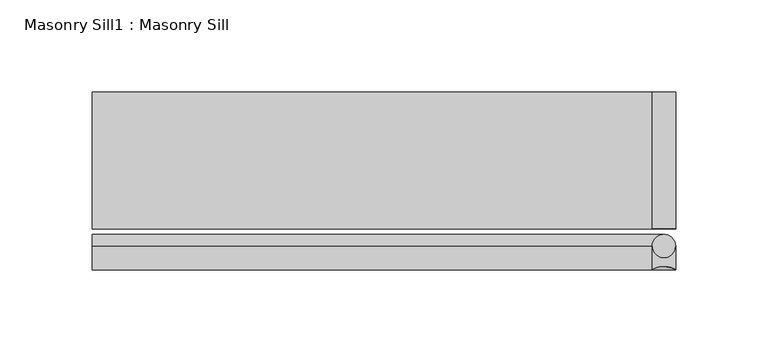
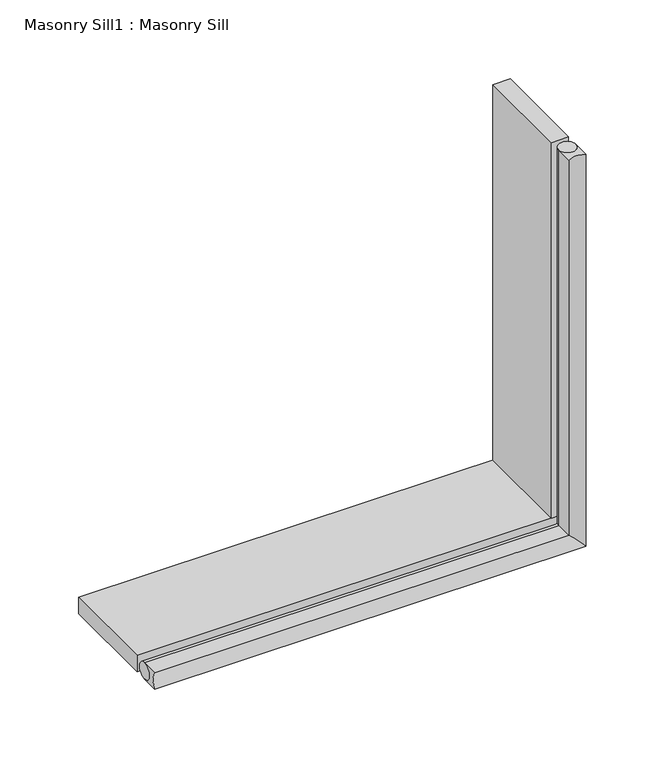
"""IFC4 building model written with IfcOpenShell, lengths in millimetres: proxy geometry, Masonry Sill1 : Masonry Sill."""

from ifc_helpers import new_model, si_unit, frame, origin, place, context, project, spatial, polyline, circle_curve, ellipse_curve, outline, extrude, source, transform, mapped, element, save
from ifc_brep_helpers import plane_surface, cylinder_surface, revolved_surface, advanced_brep


def masonry_sill1_masonry_sill_69ac0e3b(model_context):
    return source(origin(), model_context, "Body", "SolidModel", [
        advanced_brep(
        [(26539.9726773, 633.9816297, 611.1875), (26539.9726773, 633.9816297, 623.8875), (26539.9726773, 646.6816297, 623.8875), (26539.9726773, 646.6816297, 611.1875), (26855.8851773, 633.9816297, 914.4), (26855.8851773, 646.6816297, 914.4), (26843.1851773, 646.6816297, 914.4), (26843.1851773, 633.9816297, 914.4), (26855.8851773, 646.6816297, 611.1875), (26855.8851773, 633.9816297, 611.1875), (26843.1851773, 646.6816297, 623.8875), (26843.1851773, 633.9816297, 623.8875)],
        [
            (0, 1, circle_curve(frame((26539.9726773, 622.983107, 617.5375), z_axis=(1.0, 0.0, 0.0), x_axis=(0.0, 0.0, 1.0)), 12.7)),
            (1, 2),
            (2, 3, circle_curve(frame((26539.9726773, 646.6816297, 617.5375), z_axis=(1.0, 0.0, 0.0), x_axis=(0.0, 0.0, 1.0)), 6.35)),
            (3, 0),
            (4, 5),
            (5, 6, circle_curve(frame((26849.5351773, 646.6816297, 914.4), z_axis=(0.0, 0.0, -1.0), x_axis=(-1.0, 0.0, 0.0)), 6.35)),
            (6, 7),
            (7, 4, circle_curve(frame((26849.5351773, 622.983107, 914.4), z_axis=(0.0, 0.0, -1.0), x_axis=(-1.0, 0.0, 0.0)), 12.7)),
            (3, 8),
            (8, 9),
            (9, 0),
            (2, 10),
            (10, 8, ellipse_curve(frame((26849.5351773, 646.6816297, 617.5375), z_axis=(0.7071067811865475, 0.0, 0.7071067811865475), x_axis=(0.7071067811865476, 0.0, -0.7071067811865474)), 8.9802561, 6.35)),
            (1, 11),
            (11, 10),
            (9, 11, ellipse_curve(frame((26849.5351773, 622.983107, 617.5375), z_axis=(0.7071067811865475, 0.0, 0.7071067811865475), x_axis=(0.7071067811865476, 0.0, -0.7071067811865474)), 17.9605122, 12.7)),
            (8, 5),
            (4, 9),
            (10, 6),
            (11, 7),
        ],
        [
            plane_surface(frame((26539.9726773, 656.2066297, 623.8875), z_axis=(-1.0, 0.0, 0.0), x_axis=(0.0, -1.0, 0.0))),
            plane_surface(frame((26843.1851773, 656.2066297, 914.4), z_axis=(0.0, 0.0, 1.0), x_axis=(0.0, -1.0, 0.0))),
            plane_surface(frame((26539.9726773, 646.6816297, 611.1875), z_axis=(0.0, 0.0, -1.0), x_axis=(1.0, 0.0, 0.0))),
            revolved_surface(polyline([(26855.8851773, 646.6816297, 623.8875), (26539.9726773, 646.6816297, 623.8875)]), (26539.9726773, 646.6816297, 617.5375), (1.0, 0.0, 0.0)),
            plane_surface(frame((26539.9726773, 633.9816297, 623.8875), z_axis=(0.0, 0.0, 1.0), x_axis=(1.0, 0.0, 0.0))),
            revolved_surface(polyline([(26862.235177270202, 622.983107, 630.2375000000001), (26539.9726773, 622.983107, 630.2375000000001)]), (26539.9726773, 622.983107, 617.5375), (1.0, 0.0, 0.0)),
            plane_surface(frame((26855.8851773, 646.6816297, 611.1875), z_axis=(1.0, 0.0, 0.0), x_axis=(0.0, 0.0, 1.0))),
            revolved_surface(polyline([(26843.1851773, 646.6816297, 914.4), (26843.1851773, 646.6816297, 611.1875)]), (26849.5351773, 646.6816297, 623.8875), (0.0, 0.0, 1.0)),
            plane_surface(frame((26843.1851773, 633.9816297, 623.8875), z_axis=(-1.0, 0.0, 0.0), x_axis=(0.0, 0.0, 1.0))),
            revolved_surface(polyline([(26836.8351773, 622.983107, 914.4), (26836.8351773, 622.983107, 604.8375000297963)]), (26849.5351773, 622.983107, 623.8875), (0.0, 0.0, 1.0)),
        ],
        [
            (0, [[1, 2, 3, 4]]),
            (1, [[5, 6, 7, 8]]),
            (2, [[-4, 9, 10, 11]]),
            (3, [[-3, 12, 13, -9]]),
            (4, [[-2, 14, 15, -12]]),
            (5, [[-1, -11, 16, -14]]),
            (6, [[-10, 17, -5, 18]]),
            (7, [[-13, 19, -6, -17]]),
            (8, [[-15, 20, -7, -19]]),
            (9, [[-16, -18, -8, -20]]),
        ],
    ),
        advanced_brep(
        [(26539.9726773, 646.6816297, 611.1875), (26539.9726773, 646.6816297, 623.8875), (26843.1851773, 646.6816297, 623.8875), (26855.8851773, 646.6816297, 611.1875), (26855.8851773, 646.6816297, 914.4), (26843.1851773, 646.6816297, 914.4)],
        [
            (0, 1, circle_curve(frame((26539.9726773, 646.6816297, 617.5375), z_axis=(-1.0, 0.0, 0.0), x_axis=(0.0, 0.0, 1.0)), 6.35)),
            (1, 0, circle_curve(frame((26539.9726773, 646.6816297, 617.5375), z_axis=(-1.0, 0.0, 0.0), x_axis=(0.0, 0.0, 1.0)), 6.35)),
            (1, 2),
            (2, 3, ellipse_curve(frame((26849.5351773, 646.6816297, 617.5375), z_axis=(-0.7071067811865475, 0.0, -0.7071067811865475), x_axis=(-0.7071067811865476, 0.0, 0.7071067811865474)), 8.9802561, 6.35)),
            (3, 0),
            (3, 2, ellipse_curve(frame((26849.5351773, 646.6816297, 617.5375), z_axis=(-0.7071067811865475, 0.0, -0.7071067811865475), x_axis=(-0.7071067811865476, 0.0, 0.7071067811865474)), 8.9802561, 6.35)),
            (4, 5, circle_curve(frame((26849.5351773, 646.6816297, 914.4), z_axis=(0.0, 0.0, 1.0), x_axis=(-1.0, 0.0, 0.0)), 6.35)),
            (5, 4, circle_curve(frame((26849.5351773, 646.6816297, 914.4), z_axis=(0.0, 0.0, 1.0), x_axis=(-1.0, 0.0, 0.0)), 6.35)),
            (2, 5),
            (4, 3),
        ],
        [
            plane_surface(frame((26539.9726773, 656.2066297, 623.8875), z_axis=(-1.0, 0.0, 0.0), x_axis=(0.0, -1.0, 0.0))),
            cylinder_surface(frame((26539.9726773, 646.6816297, 617.5375), z_axis=(-1.0, 0.0, 0.0), x_axis=(0.0, 0.0, 1.0)), 6.35),
            plane_surface(frame((26843.1851773, 656.2066297, 914.4), z_axis=(0.0, 0.0, 1.0), x_axis=(0.0, -1.0, 0.0))),
            cylinder_surface(frame((26849.5351773, 646.6816297, 623.8875), z_axis=(0.0, 0.0, -1.0), x_axis=(-1.0, 0.0, 0.0)), 6.35),
        ],
        [
            (0, [[1, 2]]),
            (1, [[-2, 3, 4, 5]]),
            (1, [[-1, -5, 6, -3]]),
            (2, [[7, 8]]),
            (3, [[-4, 9, -7, 10]]),
            (3, [[-6, -10, -8, -9]]),
        ],
    ),
        extrude(outline(polyline([(26855.8851773, 656.2066297), (26843.1851773, 656.2066297), (26843.1851773, 730.1774531), (26855.8851773, 730.1774531), (26855.8851773, 656.2066297)])), frame((0.0, 0.0, 623.8875), z_axis=(0.0, 0.0, 1.0), x_axis=(1.0, 0.0, 0.0)), (0.0, 0.0, 1.0), 290.5125),
        extrude(outline(polyline([(26539.9726773, 656.2066297), (26539.9726773, 730.1774531), (26855.8851773, 730.1774531), (26855.8851773, 656.2066297), (26539.9726773, 656.2066297)])), frame((0.0, 0.0, 611.1875), z_axis=(0.0, 0.0, 1.0), x_axis=(1.0, 0.0, 0.0)), (0.0, 0.0, 1.0), 12.7),
    ])


if __name__ == "__main__":
    model = new_model("IFC4")
    model_context = context("Model", 3, world=origin())
    ifc_project = project(units=[si_unit("LENGTHUNIT", "METRE", prefix="MILLI")], contexts=[model_context])
    site = spatial("IfcSite", under=ifc_project)
    building = spatial("IfcBuilding", under=site)
    placement = place(None, origin())
    masonry_sill1_masonry_sill_shape = masonry_sill1_masonry_sill_69ac0e3b(model_context)
    element("IfcBuildingElementProxy", 1, Name="Masonry Sill1 : Masonry Sill", ObjectType="Masonry Sill1 : Masonry Sill", at=placement, inside=building, context=model_context, shape_type="MappedRepresentation", body=[
        mapped(masonry_sill1_masonry_sill_shape, transform((0.0, 0.0, 0.0), x_axis=(1.0, 0.0, 0.0), y_axis=(0.0, 1.0, 0.0), z_axis=(0.0, 0.0, 1.0))),
    ])
    save(model, "model.ifc")
